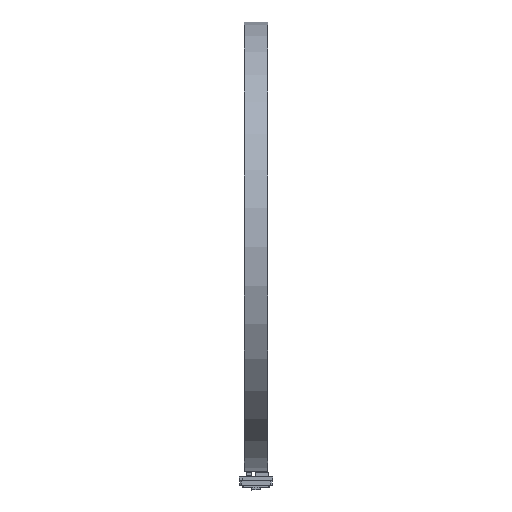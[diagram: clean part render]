
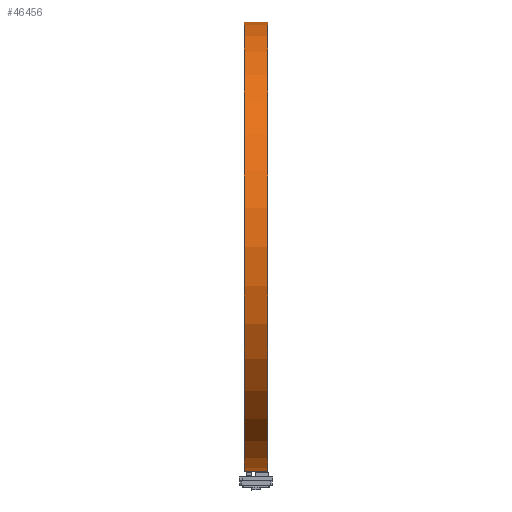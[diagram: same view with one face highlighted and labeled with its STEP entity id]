
A CAD part, left-side view. The second image highlights one B-rep face of the part: STEP entity #46456.
In plain terms, the highlighted cylindrical face has radius 114.4 mm (diameter 228.8 mm), a partial arc.
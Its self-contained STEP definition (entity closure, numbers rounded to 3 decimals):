
#3674 = CIRCLE ( 'NONE', #42003, 114.4 ) ;
#4437 = CARTESIAN_POINT ( 'NONE',  ( 0., 0., 114.4 ) ) ;
#4701 = EDGE_LOOP ( 'NONE', ( #63901, #33978, #13793, #66914 ) ) ;
#4917 = EDGE_CURVE ( 'NONE', #33774, #64174, #3674, .T. ) ;
#7828 = CIRCLE ( 'NONE', #13297, 114.4 ) ;
#10888 = LINE ( 'NONE', #31423, #14066 ) ;
#10892 = CARTESIAN_POINT ( 'NONE',  ( 0., 0., -114.4 ) ) ;
#12711 = FACE_OUTER_BOUND ( 'NONE', #4701, .T. ) ;
#13297 = AXIS2_PLACEMENT_3D ( 'NONE', #80712, #35171, #49706 ) ;
#13793 = ORIENTED_EDGE ( 'NONE', *, *, #68483, .T. ) ;
#14066 = VECTOR ( 'NONE', #24153, 1000. ) ;
#14797 = DIRECTION ( 'NONE',  ( 0., -1., 0. ) ) ;
#19570 = CARTESIAN_POINT ( 'NONE',  ( 0., 0., 0. ) ) ;
#20678 = CARTESIAN_POINT ( 'NONE',  ( 0., 0., 114.4 ) ) ;
#24153 = DIRECTION ( 'NONE',  ( 0., -1., 0. ) ) ;
#25985 = DIRECTION ( 'NONE',  ( 0., 0., -1. ) ) ;
#27988 = VERTEX_POINT ( 'NONE', #10892 ) ;
#31423 = CARTESIAN_POINT ( 'NONE',  ( 0., 0., -114.4 ) ) ;
#31521 = EDGE_CURVE ( 'NONE', #37885, #27988, #7828, .T. ) ;
#33774 = VERTEX_POINT ( 'NONE', #48282 ) ;
#33978 = ORIENTED_EDGE ( 'NONE', *, *, #4917, .T. ) ;
#35171 = DIRECTION ( 'NONE',  ( 0., -1., 0. ) ) ;
#35286 = DIRECTION ( 'NONE',  ( 0., 0., -1. ) ) ;
#37885 = VERTEX_POINT ( 'NONE', #20678 ) ;
#42003 = AXIS2_PLACEMENT_3D ( 'NONE', #46903, #14797, #35286 ) ;
#42848 = CARTESIAN_POINT ( 'NONE',  ( 0., 12., -114.4 ) ) ;
#43893 = LINE ( 'NONE', #4437, #44399 ) ;
#44399 = VECTOR ( 'NONE', #49020, 1000. ) ;
#46456 = ADVANCED_FACE ( 'NONE', ( #12711 ), #70651, .T. ) ;
#46903 = CARTESIAN_POINT ( 'NONE',  ( 0., 12., 0. ) ) ;
#48282 = CARTESIAN_POINT ( 'NONE',  ( 0., 12., 114.4 ) ) ;
#49020 = DIRECTION ( 'NONE',  ( 0., -1., 0. ) ) ;
#49706 = DIRECTION ( 'NONE',  ( 0., 0., -1. ) ) ;
#58654 = DIRECTION ( 'NONE',  ( 0., -1., 0. ) ) ;
#63901 = ORIENTED_EDGE ( 'NONE', *, *, #76786, .F. ) ;
#64174 = VERTEX_POINT ( 'NONE', #42848 ) ;
#66914 = ORIENTED_EDGE ( 'NONE', *, *, #31521, .F. ) ;
#68483 = EDGE_CURVE ( 'NONE', #64174, #27988, #10888, .T. ) ;
#70651 = CYLINDRICAL_SURFACE ( 'NONE', #75929, 114.4 ) ;
#75929 = AXIS2_PLACEMENT_3D ( 'NONE', #19570, #58654, #25985 ) ;
#76786 = EDGE_CURVE ( 'NONE', #33774, #37885, #43893, .T. ) ;
#80712 = CARTESIAN_POINT ( 'NONE',  ( 0., 0., 0. ) ) ;
